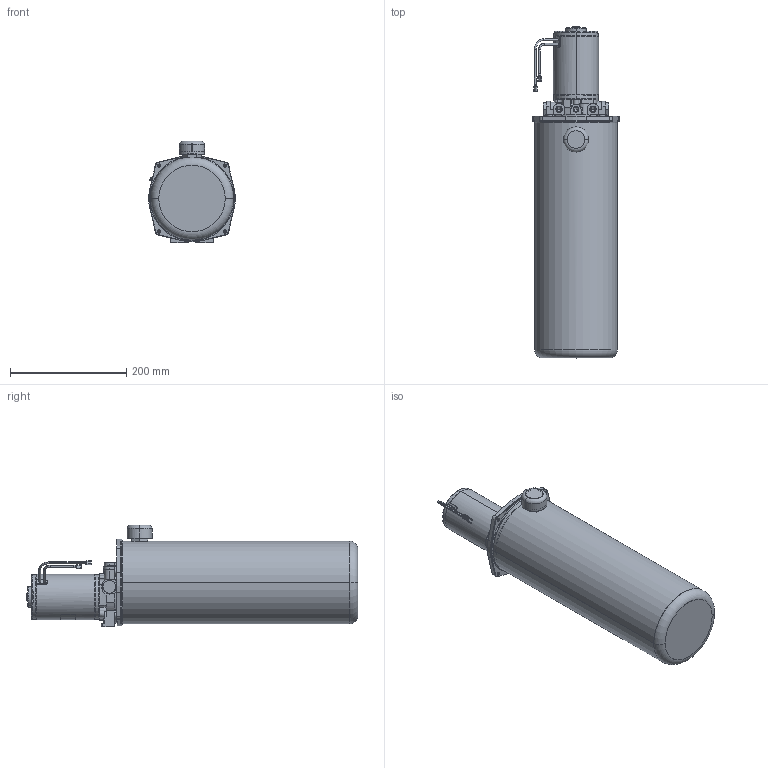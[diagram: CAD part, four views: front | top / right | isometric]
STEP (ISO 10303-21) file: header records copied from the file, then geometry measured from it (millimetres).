
FILE_DESCRIPTION((''),'2;1');
FILE_NAME('108-AE-BE-J_ASM','2016-05-09T',('DA10877'),('OILDYNE'),'PRO/ENGINEER BY PARAMETRIC TECHNOLOGY CORPORATION, 2009300','PRO/ENGINEER BY PARAMETRIC TECHNOLOGY CORPORATION, 2009300','');
FILE_SCHEMA(('CONFIG_CONTROL_DESIGN'));
Length unit declared in the file: inch
Products named in the file (1): 108-AE-BE-J_ASM
Bounding box: 148.8 x 571.4 x 174.89 mm (x, y, z)
Volume: 919372.8 mm3; surface area: 541301.4 mm2
Topology: 7 solids, 13 shells, 1030 faces, 2672 edges, 1694 vertices
Faces by surface type: plane 421, cylinder 391, cone 122, torus 81, bspline 13, sphere 2
Entity records: 33066 total; most frequent: CARTESIAN_POINT 7477, DIRECTION 5521, ORIENTED_EDGE 5272, EDGE_CURVE 2652, AXIS2_PLACEMENT_3D 2093, VERTEX_POINT 1694, VECTOR 1335, LINE 1335
